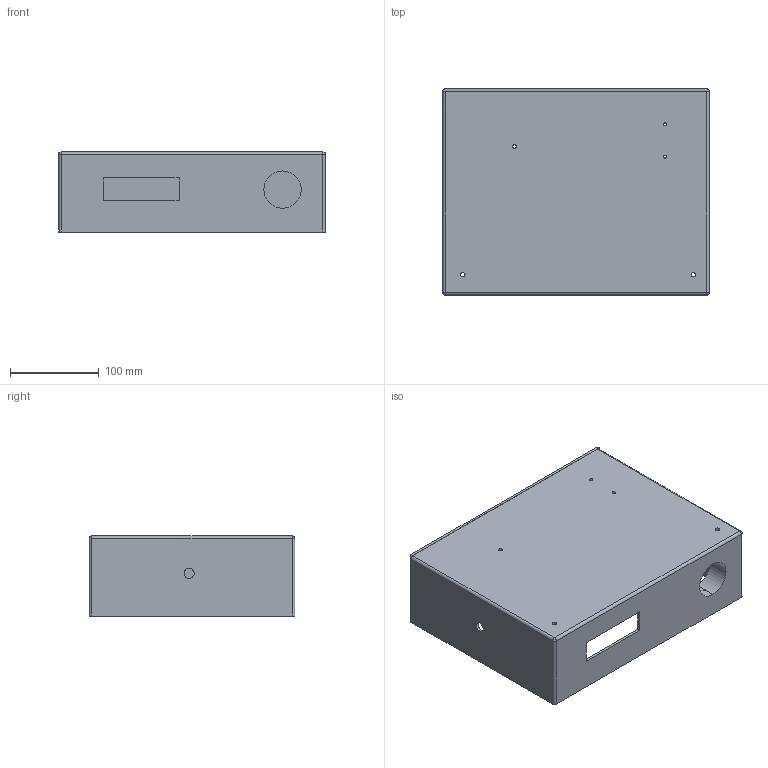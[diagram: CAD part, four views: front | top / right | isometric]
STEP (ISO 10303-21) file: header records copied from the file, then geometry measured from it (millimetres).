
FILE_DESCRIPTION (( 'STEP AP214' ), '1' );
FILE_NAME ('the housing of the optical systerm.STEP', '2026-04-21T03:37:15', ( '' ), ( '' ), 'SwSTEP 2.0', 'SolidWorks 2024', '' );
FILE_SCHEMA (( 'AUTOMOTIVE_DESIGN' ));
Length unit declared in the file: millimetre
Products named in the file (1): the housing of the optical systerm
Bounding box: 300.03 x 231.69 x 90 mm (x, y, z)
Volume: 613722.7 mm3; surface area: 320481 mm2
Topology: 1 solids, 1 shells, 81 faces, 208 edges, 135 vertices
Faces by surface type: cylinder 45, plane 34, sphere 2
Entity records: 2621 total; most frequent: CARTESIAN_POINT 494, DIRECTION 453, ORIENTED_EDGE 412, EDGE_CURVE 206, AXIS2_PLACEMENT_3D 174, VERTEX_POINT 135, EDGE_LOOP 107, LINE 105
